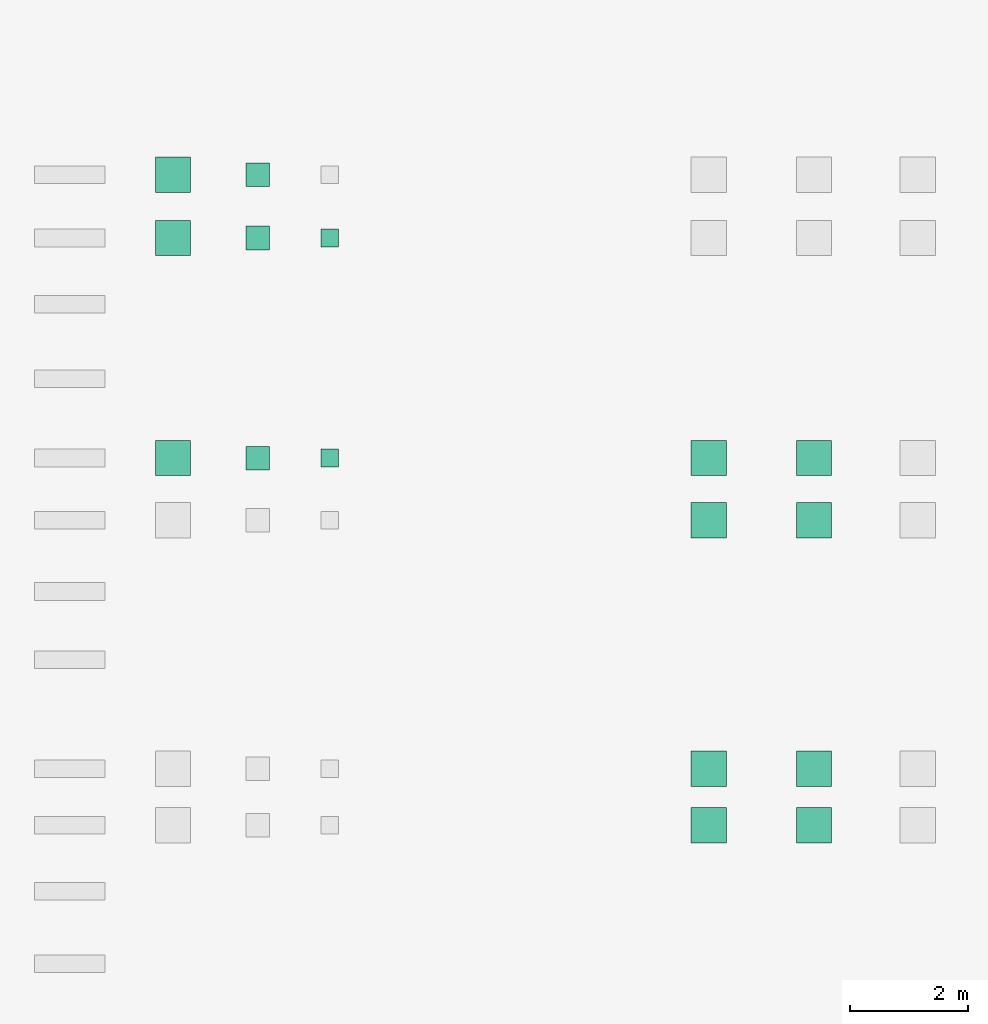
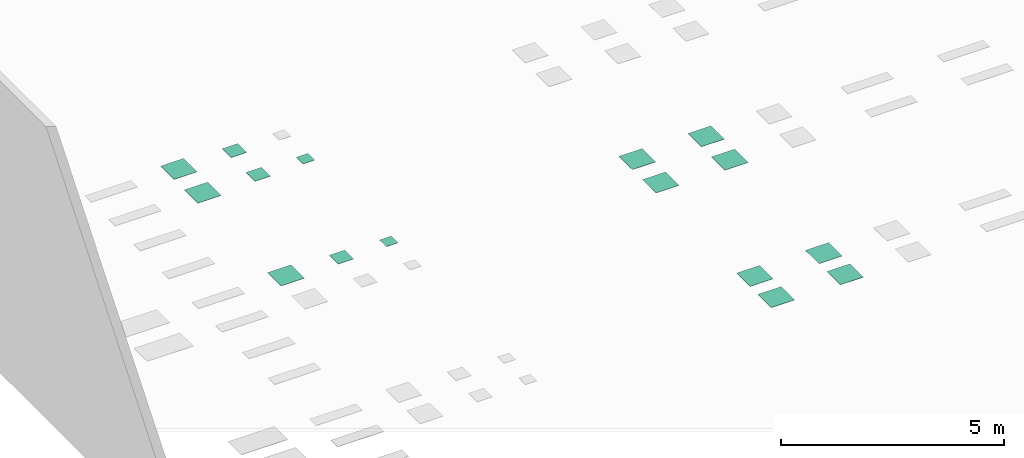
# One storey, part 19 of 197: 16 flow terminals.
"""IFC2X3 building model written with IfcOpenShell, lengths in metres."""

import ifcopenshell
import ifcopenshell.guid

model = None  # the IFC model being written
_history = None  # IfcOwnerHistory: only IFC2X3 demands one
_inside = {}  # id of a spatial element -> (the spatial element, [elements in it])
_under = {}  # id of a project, library or spatial element -> (it, [spatial elements below it])
_declared = {}  # id of a project -> (the project, [libraries it declares])
_typed = {}  # id of a type object -> (the type object, [elements of that type])
_made_of = {}  # id of a material, layer set ... -> (it, [elements and type objects made of it])


def new_model(schema):
    """Start an empty IFC model of exactly this schema.

    Asked for "IFC4X3", IfcOpenShell would pick the latest addendum, in which some entities
    have other attributes; the version numbers below select the first issue.
    IFC2X3 requires an IfcOwnerHistory on every rooted entity: one is made here for all.
    """
    global model, _history
    if schema == "IFC4X3":
        model = ifcopenshell.file(schema_version=(4, 3, 0, 0))
    else:
        model = ifcopenshell.file(schema=schema)
    _inside.clear()
    _under.clear()
    _declared.clear()
    _typed.clear()
    _made_of.clear()
    _history = None
    if model.schema == "IFC2X3":
        org = make("IfcOrganization", Name="unknown")
        user = make(
            "IfcPersonAndOrganization",
            ThePerson=make("IfcPerson", FamilyName="unknown"),
            TheOrganization=org,
        )
        app = make(
            "IfcApplication",
            ApplicationDeveloper=org,
            Version="unknown",
            ApplicationFullName="unknown",
            ApplicationIdentifier="unknown",
        )
        _history = make(
            "IfcOwnerHistory",
            OwningUser=user,
            OwningApplication=app,
            ChangeAction="ADDED",
            CreationDate=0,
        )
    return model


def make(cls, **values):
    """One entity of the class cls with the attributes given. An attribute that is None is left unset."""
    return model.create_entity(
        cls, **{name: value for name, value in values.items() if value is not None}
    )


def entity(cls, *values):
    """Any entity or typed value of the class cls, its attributes in the order of the schema. None: left unset."""
    e = model.create_entity(cls)
    for i, value in enumerate(values):
        if value is not None:
            e[i] = value
    return e


def rooted(cls, **values):
    """An entity with a GlobalId (a new one), such as an element, a storey or a relation."""
    return make(cls, GlobalId=ifcopenshell.guid.new(), OwnerHistory=_history, **values)


def si_unit(unit_type, name, prefix=None):
    """IfcSIUnit, for example si_unit("LENGTHUNIT", "METRE", prefix="MILLI")."""
    return make("IfcSIUnit", UnitType=unit_type, Prefix=prefix, Name=name)


def converted_unit(unit_type, name, factor, base, dimensions=None, offset=None):
    """IfcConversionBasedUnit, such as the inch: factor (a typed value) times the base unit."""
    return make(
        "IfcConversionBasedUnit"
        if offset is None
        else "IfcConversionBasedUnitWithOffset",
        ConversionOffset=offset,
        Dimensions=None
        if dimensions is None
        else entity("IfcDimensionalExponents", *dimensions),
        UnitType=unit_type,
        Name=name,
        ConversionFactor=make(
            "IfcMeasureWithUnit", ValueComponent=factor, UnitComponent=base
        ),
    )


def assignment(units):
    """IfcUnitAssignment: the units of a project."""
    return None if units is None else make("IfcUnitAssignment", Units=units)


def point(xyz):
    """IfcCartesianPoint."""
    return None if xyz is None else make("IfcCartesianPoint", Coordinates=xyz)


def direction(xyz):
    """IfcDirection."""
    return None if xyz is None else make("IfcDirection", DirectionRatios=xyz)


def frame(location, z_axis=None, x_axis=None):
    """IfcAxis2Placement3D, a coordinate frame: its origin and axes. An axis left out is left unset."""
    return make(
        "IfcAxis2Placement3D",
        Location=point(location),
        Axis=direction(z_axis),
        RefDirection=direction(x_axis),
    )


def frame_2d(location, x_axis=None):
    """IfcAxis2Placement2D, a coordinate frame in the plane: its origin and x axis."""
    return make(
        "IfcAxis2Placement2D", Location=point(location), RefDirection=direction(x_axis)
    )


def origin():
    """The frame at (0, 0, 0) with its axes left unset."""
    return frame((0.0, 0.0, 0.0))


def origin_2d_with_axis():
    """The frame at (0, 0) in the plane with the x axis (1, 0) written out."""
    return frame_2d((0.0, 0.0), x_axis=(1.0, 0.0))


def place(relative_to, where):
    """IfcLocalPlacement: puts the frame where relative to a parent placement (None: the world)."""
    return make(
        "IfcLocalPlacement", PlacementRelTo=relative_to, RelativePlacement=where
    )


def context(
    kind, dimensions, precision=None, world=None, true_north=None, identifier=None
):
    """IfcGeometricRepresentationContext, for example the 3D "Model" context."""
    return make(
        "IfcGeometricRepresentationContext",
        ContextIdentifier=identifier,
        ContextType=kind,
        CoordinateSpaceDimension=dimensions,
        Precision=precision,
        WorldCoordinateSystem=world,
        TrueNorth=true_north,
    )


def subcontext(parent, identifier, kind, view, scale=None):
    """IfcGeometricRepresentationSubContext, for example "Body" below "Model"."""
    return make(
        "IfcGeometricRepresentationSubContext",
        ContextIdentifier=identifier,
        ContextType=kind,
        ParentContext=parent,
        TargetScale=scale,
        TargetView=view,
    )


def project(units=None, contexts=None):
    """IfcProject with its units and contexts."""
    return rooted(
        "IfcProject",
        Name="project",
        RepresentationContexts=contexts,
        UnitsInContext=assignment(units),
    )


def spatial(cls, under=None, at=None, **own):
    """A site, building, storey or space (cls), placed at a placement, below another one or the project."""
    s = rooted(cls, ObjectPlacement=at, **own)
    if under is not None:
        _under.setdefault(under.id(), (under, []))[1].append(s)
    return s


def polyline(points):
    """IfcPolyline through the points."""
    return make("IfcPolyline", Points=[point(p) for p in points])


def profile(cls, at=None, kind="AREA", **sizes):
    """A parametric profile (cls). Its sizes go by their IFC names, for example OverallWidth=200.0."""
    return make(cls, ProfileType=kind, Position=at, **sizes)


def rectangle(**sizes):
    """IfcRectangleProfileDef."""
    return profile("IfcRectangleProfileDef", **sizes)


def circle(**sizes):
    """IfcCircleProfileDef."""
    return profile("IfcCircleProfileDef", **sizes)


def outline(outer, holes=None, kind="AREA"):
    """IfcArbitraryClosedProfileDef: a profile drawn as a closed curve; with holes, ...WithVoids."""
    if holes is None:
        return make("IfcArbitraryClosedProfileDef", ProfileType=kind, OuterCurve=outer)
    return make(
        "IfcArbitraryProfileDefWithVoids",
        ProfileType=kind,
        OuterCurve=outer,
        InnerCurves=holes,
    )


def extrude(swept, where, along, depth):
    """IfcExtrudedAreaSolid: the profile swept, set in the frame where, extruded along a direction by depth."""
    return make(
        "IfcExtrudedAreaSolid",
        SweptArea=swept,
        Position=where,
        ExtrudedDirection=direction(along),
        Depth=depth,
    )


def shape(context_of_items, identifier, shape_type, items):
    """IfcShapeRepresentation: the items that make up one representation, for example the "Body"."""
    return make(
        "IfcShapeRepresentation",
        ContextOfItems=context_of_items,
        RepresentationIdentifier=identifier,
        RepresentationType=shape_type,
        Items=items,
    )


def source(mapping_origin, context_of_items, identifier, shape_type, items):
    """IfcRepresentationMap: a shape defined once, which mapped items show again and again."""
    return make(
        "IfcRepresentationMap",
        MappingOrigin=mapping_origin,
        MappedRepresentation=shape(context_of_items, identifier, shape_type, items),
    )


def transform(
    local_origin,
    x_axis=None,
    y_axis=None,
    z_axis=None,
    scale=None,
    scale2=None,
    scale3=None,
    uniform=True,
):
    """IfcCartesianTransformationOperator3D, or its non-uniform kind. x_axis, y_axis, z_axis: its Axis1, 2, 3."""
    if uniform:
        return make(
            "IfcCartesianTransformationOperator3D",
            Axis1=direction(x_axis),
            Axis2=direction(y_axis),
            LocalOrigin=point(local_origin),
            Scale=scale,
            Axis3=direction(z_axis),
        )
    return make(
        "IfcCartesianTransformationOperator3DnonUniform",
        Axis1=direction(x_axis),
        Axis2=direction(y_axis),
        LocalOrigin=point(local_origin),
        Scale=scale,
        Axis3=direction(z_axis),
        Scale2=scale2,
        Scale3=scale3,
    )


def mapped(mapping_source, mapping_target):
    """IfcMappedItem: shows the shape of a source again, moved by a transform."""
    return make(
        "IfcMappedItem", MappingSource=mapping_source, MappingTarget=mapping_target
    )


def material(Name=None, Category=None):
    """IfcMaterial."""
    return make("IfcMaterial", Name=Name, Category=Category)


def material_list(materials):
    """IfcMaterialList."""
    return make("IfcMaterialList", Materials=materials)


def made_of(thing, what):
    """Note that an element or type object is made of a material, layer set ...; save() writes the relation."""
    if what is not None:
        _made_of.setdefault(what.id(), (what, []))[1].append(thing)
    return thing


def type_object(cls, material=None, **own):
    """A type object (cls), such as IfcWallType, which elements share."""
    return made_of(rooted(cls, **own), material)


def type_shapes(of_type, sources):
    """Give a type object the sources (RepresentationMaps) that its elements show as mapped items."""
    of_type.RepresentationMaps = sources


def element(
    cls,
    number,
    at=None,
    inside=None,
    cuts=None,
    type_object=None,
    material=None,
    context=None,
    identifier="Body",
    shape_type=None,
    held_by="IfcProductDefinitionShape",
    body=None,
    shapes=None,
    **own,
):
    """One element of the class cls, such as IfcWall. Its Tag is "e" and its number.

    at: its placement. inside: the storey or other place that contains it. cuts: it is an
    opening in that element (IfcRelVoidsElement). A single representation is given by context,
    identifier, shape_type and body (its items); several are given by shapes. held_by: the class
    of the entity that holds the representations. save() writes the other relations.
    """
    e = rooted(cls, Tag="e%d" % number, ObjectPlacement=at, **own)
    if body is not None:
        shapes = [shape(context, identifier, shape_type, body)]
    if shapes is not None:
        e.Representation = make(held_by, Representations=shapes)
    if inside is not None:
        _inside.setdefault(inside.id(), (inside, []))[1].append(e)
    if cuts is not None:
        rooted(
            "IfcRelVoidsElement", RelatingBuildingElement=cuts, RelatedOpeningElement=e
        )
    if type_object is not None:
        _typed.setdefault(type_object.id(), (type_object, []))[1].append(e)
    return made_of(e, material)


def aggregate(whole, parts):
    """IfcRelAggregates: a whole, such as a stair, and the parts it consists of."""
    return rooted("IfcRelAggregates", RelatingObject=whole, RelatedObjects=parts)


def save(model, path):
    """Write the relations noted so far, then the file.

    IfcRelAggregates (storeys below a building ...), IfcRelContainedInSpatialStructure (elements
    in a storey), IfcRelDefinesByType, IfcRelAssociatesMaterial and IfcRelDeclares: one each for
    every whole, place, type object, material and project.
    """
    for whole, parts in _under.values():
        aggregate(whole, parts)
    for where, things in _inside.values():
        rooted(
            "IfcRelContainedInSpatialStructure",
            RelatedElements=things,
            RelatingStructure=where,
        )
    for kind, things in _typed.values():
        rooted("IfcRelDefinesByType", RelatedObjects=things, RelatingType=kind)
    for what, things in _made_of.values():
        rooted("IfcRelAssociatesMaterial", RelatedObjects=things, RelatingMaterial=what)
    for by, libraries in _declared.values():
        rooted("IfcRelDeclares", RelatingContext=by, RelatedDefinitions=libraries)
    model.write(path)


model = new_model("IFC2X3")

# Units and contexts
model_context = context("Model", 3, precision=1e-05, world=origin(), true_north=direction((6.123031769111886e-17, 1.0)))
body_context = subcontext(model_context, "Body", "Model", "MODEL_VIEW")
ifc_project = project(units=[si_unit("LENGTHUNIT", "METRE"), converted_unit("PLANEANGLEUNIT", "DEGREE", entity("IfcPlaneAngleMeasure", 0.017453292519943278), si_unit("PLANEANGLEUNIT", "RADIAN"), dimensions=[0, 0, 0, 0, 0, 0, 0]), si_unit("AREAUNIT", "SQUARE_METRE")], contexts=[model_context])

# Site, building, storey
site_placement = place(None, origin())
site = spatial("IfcSite", under=ifc_project, at=site_placement, Name="Default", CompositionType="ELEMENT")
building_placement = place(site_placement, origin())
building = spatial("IfcBuilding", under=site, at=building_placement, CompositionType="ELEMENT")
storey_placement = place(building_placement, origin())
storey = spatial("IfcBuildingStorey", under=building, at=storey_placement, Name="Niveau 0", CompositionType="ELEMENT", Elevation=0.0)

# Flow terminals
ifc_material_1 = material(Name="<Unnamed>")
light_fixture_type_1 = type_object("IfcLightFixtureType", Name="Pavé LED encastré_saillie_suspendu:ENCASTRE - 600X600", PredefinedType="NOTDEFINED", material=ifc_material_1)
shared_shape_1 = source(origin(), body_context, "Body", "SweptSolid", [
    extrude(rectangle(XDim=0.56, YDim=0.56, at=origin_2d_with_axis()), frame((0.0, 0.0, 1.5013367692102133), z_axis=(0.0, 0.0, 1.0), x_axis=(-1.0, 0.0, 0.0)), (0.0, 0.0, 1.0), 0.008663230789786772),
    extrude(outline(polyline([(-0.30000000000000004, -0.30000000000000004), (0.30000000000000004, -0.30000000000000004), (0.30000000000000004, 0.30000000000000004), (-0.30000000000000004, 0.30000000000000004), (-0.30000000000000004, -0.30000000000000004)]), holes=[polyline([(0.28, -0.28), (-0.28, -0.28), (-0.28, 0.28), (0.28, 0.28), (0.28, -0.28)])]), frame((0.0, 0.0, 1.499999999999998), z_axis=(0.0, 0.0, 1.0), x_axis=(-1.0, 0.0, 0.0)), (0.0, 0.0, 1.0), 0.010000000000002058),
    extrude(circle(Radius=0.0014999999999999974, at=origin_2d_with_axis()), frame((0.28999999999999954, -0.2900000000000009, 1.51)), (0.0, 0.0, 1.0), 0.0010000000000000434),
    extrude(circle(Radius=0.0014999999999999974, at=origin_2d_with_axis()), frame((0.28999999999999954, 0.2900000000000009, 1.51)), (0.0, 0.0, 1.0), 0.0010000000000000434),
    extrude(circle(Radius=0.0014999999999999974, at=origin_2d_with_axis()), frame((-0.28999999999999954, 0.2900000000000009, 1.51)), (0.0, 0.0, 1.0), 0.0010000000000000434),
    extrude(circle(Radius=0.0014999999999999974, at=origin_2d_with_axis()), frame((-0.28999999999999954, -0.2900000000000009, 1.51)), (0.0, 0.0, 1.0), 0.0010000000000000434),
])
type_shapes(light_fixture_type_1, [shared_shape_1])
flow_terminal_1_placement = place(storey_placement, frame((-534.2447105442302, 47.699573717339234, 0.0)))
element("IfcFlowTerminal", 1, at=flow_terminal_1_placement, inside=storey, type_object=light_fixture_type_1, material=ifc_material_1, Name="Pavé LED encastré_saillie_suspendu:ENCASTRE - 600X600", ObjectType="Pavé LED encastré_saillie_suspendu:ENCASTRE - 600X600", context=body_context, shape_type="MappedRepresentation", body=[
    mapped(shared_shape_1, transform((0.0, 0.0, 0.0), scale=1.0)),
])
light_fixture_type_2 = type_object("IfcLightFixtureType", Name="Pavé LED encastré_saillie_suspendu:ENCASTRE - 400X400", PredefinedType="NOTDEFINED", material=ifc_material_1)
shared_shape_2 = source(origin(), body_context, "Body", "SweptSolid", [
    extrude(rectangle(XDim=0.36, YDim=0.36, at=origin_2d_with_axis()), frame((0.0, 0.0, 1.5013367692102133), z_axis=(0.0, 0.0, 1.0), x_axis=(-1.0, 0.0, 0.0)), (0.0, 0.0, 1.0), 0.008663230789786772),
    extrude(outline(polyline([(-0.19999999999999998, -0.19999999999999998), (0.19999999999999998, -0.19999999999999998), (0.19999999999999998, 0.19999999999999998), (-0.19999999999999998, 0.19999999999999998), (-0.19999999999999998, -0.19999999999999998)]), holes=[polyline([(0.18, -0.18), (-0.18, -0.18), (-0.18, 0.18), (0.18, 0.18), (0.18, -0.18)])]), frame((0.0, 0.0, 1.499999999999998), z_axis=(0.0, 0.0, 1.0), x_axis=(-1.0, 0.0, 0.0)), (0.0, 0.0, 1.0), 0.010000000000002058),
    extrude(circle(Radius=0.0014999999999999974, at=origin_2d_with_axis()), frame((0.1899999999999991, -0.19000000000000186, 1.51)), (0.0, 0.0, 1.0), 0.0010000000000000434),
    extrude(circle(Radius=0.0014999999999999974, at=origin_2d_with_axis()), frame((0.1899999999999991, 0.18999999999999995, 1.51)), (0.0, 0.0, 1.0), 0.0010000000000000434),
    extrude(circle(Radius=0.0014999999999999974, at=origin_2d_with_axis()), frame((-0.19000000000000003, 0.18999999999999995, 1.51)), (0.0, 0.0, 1.0), 0.0010000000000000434),
    extrude(circle(Radius=0.0014999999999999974, at=origin_2d_with_axis()), frame((-0.19000000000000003, -0.19000000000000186, 1.51)), (0.0, 0.0, 1.0), 0.0010000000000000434),
])
type_shapes(light_fixture_type_2, [shared_shape_2])
flow_terminal_2_placement = place(storey_placement, frame((-532.8067105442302, 47.699573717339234, 0.0)))
element("IfcFlowTerminal", 2, at=flow_terminal_2_placement, inside=storey, type_object=light_fixture_type_2, material=ifc_material_1, Name="Pavé LED encastré_saillie_suspendu:ENCASTRE - 400X400", ObjectType="Pavé LED encastré_saillie_suspendu:ENCASTRE - 400X400", context=body_context, shape_type="MappedRepresentation", body=[
    mapped(shared_shape_2, transform((0.0, 0.0, 0.0), scale=1.0)),
])
light_fixture_type_3 = type_object("IfcLightFixtureType", Name="Pavé LED encastré_saillie_suspendu:ENCASTRE DALI - 300X300", PredefinedType="NOTDEFINED", material=ifc_material_1)
shared_shape_3 = source(origin(), body_context, "Body", "SweptSolid", [
    extrude(rectangle(XDim=0.26000000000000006, YDim=0.26, at=origin_2d_with_axis()), frame((0.0, 0.0, 1.5013367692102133), z_axis=(0.0, 0.0, 1.0), x_axis=(-1.0, 0.0, 0.0)), (0.0, 0.0, 1.0), 0.008663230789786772),
    extrude(outline(polyline([(-0.15000000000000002, -0.15), (0.15000000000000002, -0.15), (0.15000000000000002, 0.15), (-0.15000000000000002, 0.15), (-0.15000000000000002, -0.15)]), holes=[polyline([(0.13000000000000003, -0.13), (-0.13000000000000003, -0.13), (-0.13000000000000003, 0.13), (0.13000000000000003, 0.13), (0.13000000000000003, -0.13)])]), frame((0.0, 0.0, 1.499999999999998), z_axis=(0.0, 0.0, 1.0), x_axis=(-1.0, 0.0, 0.0)), (0.0, 0.0, 1.0), 0.010000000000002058),
    extrude(circle(Radius=0.0014999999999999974, at=origin_2d_with_axis()), frame((0.1399999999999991, -0.14000000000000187, 1.51)), (0.0, 0.0, 1.0), 0.0010000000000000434),
    extrude(circle(Radius=0.0014999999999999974, at=origin_2d_with_axis()), frame((0.1399999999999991, 0.13999999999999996, 1.51)), (0.0, 0.0, 1.0), 0.0010000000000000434),
    extrude(circle(Radius=0.0014999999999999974, at=origin_2d_with_axis()), frame((-0.14000000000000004, 0.13999999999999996, 1.51)), (0.0, 0.0, 1.0), 0.0010000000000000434),
    extrude(circle(Radius=0.0014999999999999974, at=origin_2d_with_axis()), frame((-0.14000000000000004, -0.14000000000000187, 1.51)), (0.0, 0.0, 1.0), 0.0010000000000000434),
])
type_shapes(light_fixture_type_3, [shared_shape_3])
flow_terminal_3_placement = place(storey_placement, frame((-531.5807105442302, 46.627355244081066, 0.0)))
element("IfcFlowTerminal", 3, at=flow_terminal_3_placement, inside=storey, type_object=light_fixture_type_3, material=ifc_material_1, Name="Pavé LED encastré_saillie_suspendu:ENCASTRE DALI - 300X300", ObjectType="Pavé LED encastré_saillie_suspendu:ENCASTRE DALI - 300X300", context=body_context, shape_type="MappedRepresentation", body=[
    mapped(shared_shape_3, transform((0.0, 0.0, 0.0), scale=1.0)),
])
light_fixture_type_4 = type_object("IfcLightFixtureType", Name="Pavé LED encastré_saillie_suspendu:ENCASTRE DALI - 400X400", PredefinedType="NOTDEFINED", material=ifc_material_1)
shared_shape_4 = source(origin(), body_context, "Body", "SweptSolid", [
    extrude(rectangle(XDim=0.36, YDim=0.36, at=origin_2d_with_axis()), frame((0.0, 0.0, 1.5013367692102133), z_axis=(0.0, 0.0, 1.0), x_axis=(-1.0, 0.0, 0.0)), (0.0, 0.0, 1.0), 0.008663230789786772),
    extrude(outline(polyline([(-0.19999999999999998, -0.19999999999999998), (0.19999999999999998, -0.19999999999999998), (0.19999999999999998, 0.19999999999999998), (-0.19999999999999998, 0.19999999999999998), (-0.19999999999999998, -0.19999999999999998)]), holes=[polyline([(0.18, -0.18), (-0.18, -0.18), (-0.18, 0.18), (0.18, 0.18), (0.18, -0.18)])]), frame((0.0, 0.0, 1.499999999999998), z_axis=(0.0, 0.0, 1.0), x_axis=(-1.0, 0.0, 0.0)), (0.0, 0.0, 1.0), 0.010000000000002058),
    extrude(circle(Radius=0.0014999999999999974, at=origin_2d_with_axis()), frame((0.1899999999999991, -0.19000000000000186, 1.51)), (0.0, 0.0, 1.0), 0.0010000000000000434),
    extrude(circle(Radius=0.0014999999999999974, at=origin_2d_with_axis()), frame((0.1899999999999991, 0.18999999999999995, 1.51)), (0.0, 0.0, 1.0), 0.0010000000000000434),
    extrude(circle(Radius=0.0014999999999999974, at=origin_2d_with_axis()), frame((-0.19000000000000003, 0.18999999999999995, 1.51)), (0.0, 0.0, 1.0), 0.0010000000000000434),
    extrude(circle(Radius=0.0014999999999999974, at=origin_2d_with_axis()), frame((-0.19000000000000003, -0.19000000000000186, 1.51)), (0.0, 0.0, 1.0), 0.0010000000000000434),
])
type_shapes(light_fixture_type_4, [shared_shape_4])
flow_terminal_4_placement = place(storey_placement, frame((-532.8067105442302, 46.627355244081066, 0.0)))
element("IfcFlowTerminal", 4, at=flow_terminal_4_placement, inside=storey, type_object=light_fixture_type_4, material=ifc_material_1, Name="Pavé LED encastré_saillie_suspendu:ENCASTRE DALI - 400X400", ObjectType="Pavé LED encastré_saillie_suspendu:ENCASTRE DALI - 400X400", context=body_context, shape_type="MappedRepresentation", body=[
    mapped(shared_shape_4, transform((0.0, 0.0, 0.0), scale=1.0)),
])
light_fixture_type_5 = type_object("IfcLightFixtureType", Name="Pavé LED encastré_saillie_suspendu:ENCASTRE DALI - 600X600", PredefinedType="NOTDEFINED", material=ifc_material_1)
shared_shape_5 = source(origin(), body_context, "Body", "SweptSolid", [
    extrude(rectangle(XDim=0.56, YDim=0.56, at=origin_2d_with_axis()), frame((0.0, 0.0, 1.5013367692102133), z_axis=(0.0, 0.0, 1.0), x_axis=(-1.0, 0.0, 0.0)), (0.0, 0.0, 1.0), 0.008663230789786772),
    extrude(outline(polyline([(-0.30000000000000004, -0.30000000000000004), (0.30000000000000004, -0.30000000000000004), (0.30000000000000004, 0.30000000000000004), (-0.30000000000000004, 0.30000000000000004), (-0.30000000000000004, -0.30000000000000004)]), holes=[polyline([(0.28, -0.28), (-0.28, -0.28), (-0.28, 0.28), (0.28, 0.28), (0.28, -0.28)])]), frame((0.0, 0.0, 1.499999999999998), z_axis=(0.0, 0.0, 1.0), x_axis=(-1.0, 0.0, 0.0)), (0.0, 0.0, 1.0), 0.010000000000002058),
    extrude(circle(Radius=0.0014999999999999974, at=origin_2d_with_axis()), frame((0.28999999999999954, -0.2900000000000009, 1.51)), (0.0, 0.0, 1.0), 0.0010000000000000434),
    extrude(circle(Radius=0.0014999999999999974, at=origin_2d_with_axis()), frame((0.28999999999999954, 0.2900000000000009, 1.51)), (0.0, 0.0, 1.0), 0.0010000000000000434),
    extrude(circle(Radius=0.0014999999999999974, at=origin_2d_with_axis()), frame((-0.28999999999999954, 0.2900000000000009, 1.51)), (0.0, 0.0, 1.0), 0.0010000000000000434),
    extrude(circle(Radius=0.0014999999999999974, at=origin_2d_with_axis()), frame((-0.28999999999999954, -0.2900000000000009, 1.51)), (0.0, 0.0, 1.0), 0.0010000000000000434),
])
type_shapes(light_fixture_type_5, [shared_shape_5])
flow_terminal_5_placement = place(storey_placement, frame((-534.2447105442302, 46.627355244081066, 0.0)))
element("IfcFlowTerminal", 5, at=flow_terminal_5_placement, inside=storey, type_object=light_fixture_type_5, material=ifc_material_1, Name="Pavé LED encastré_saillie_suspendu:ENCASTRE DALI - 600X600", ObjectType="Pavé LED encastré_saillie_suspendu:ENCASTRE DALI - 600X600", context=body_context, shape_type="MappedRepresentation", body=[
    mapped(shared_shape_5, transform((0.0, 0.0, 0.0), scale=1.0)),
])
light_fixture_type_6 = type_object("IfcLightFixtureType", Name="Pavé LED encastré_saillie_suspendu:SAILLIE - 600X600", PredefinedType="NOTDEFINED", material=ifc_material_1)
shared_shape_6 = source(origin(), body_context, "Body", "SweptSolid", [
    extrude(rectangle(XDim=0.56, YDim=0.56, at=origin_2d_with_axis()), frame((0.0, 0.0, 1.5013367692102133), z_axis=(0.0, 0.0, 1.0), x_axis=(-1.0, 0.0, 0.0)), (0.0, 0.0, 1.0), 0.008663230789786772),
    extrude(outline(polyline([(-0.30000000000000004, -0.30000000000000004), (0.30000000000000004, -0.30000000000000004), (0.30000000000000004, 0.30000000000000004), (-0.30000000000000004, 0.30000000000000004), (-0.30000000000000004, -0.30000000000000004)]), holes=[polyline([(0.28, -0.28), (-0.28, -0.28), (-0.28, 0.28), (0.28, 0.28), (0.28, -0.28)])]), frame((0.0, 0.0, 1.499999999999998), z_axis=(0.0, 0.0, 1.0), x_axis=(-1.0, 0.0, 0.0)), (0.0, 0.0, 1.0), 0.010000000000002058),
    extrude(circle(Radius=0.0014999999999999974, at=origin_2d_with_axis()), frame((0.28999999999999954, -0.2900000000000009, 1.51)), (0.0, 0.0, 1.0), 0.0010000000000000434),
    extrude(circle(Radius=0.0014999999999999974, at=origin_2d_with_axis()), frame((0.28999999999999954, 0.2900000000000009, 1.51)), (0.0, 0.0, 1.0), 0.0010000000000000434),
    extrude(circle(Radius=0.0014999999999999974, at=origin_2d_with_axis()), frame((-0.28999999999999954, 0.2900000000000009, 1.51)), (0.0, 0.0, 1.0), 0.0010000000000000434),
    extrude(circle(Radius=0.0014999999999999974, at=origin_2d_with_axis()), frame((-0.28999999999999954, -0.2900000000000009, 1.51)), (0.0, 0.0, 1.0), 0.0010000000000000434),
])
type_shapes(light_fixture_type_6, [shared_shape_6])
flow_terminal_6_placement = place(storey_placement, frame((-534.2447105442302, 42.89135524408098, 0.0)))
element("IfcFlowTerminal", 6, at=flow_terminal_6_placement, inside=storey, type_object=light_fixture_type_6, material=ifc_material_1, Name="Pavé LED encastré_saillie_suspendu:SAILLIE - 600X600", ObjectType="Pavé LED encastré_saillie_suspendu:SAILLIE - 600X600", context=body_context, shape_type="MappedRepresentation", body=[
    mapped(shared_shape_6, transform((0.0, 0.0, 0.0), scale=1.0)),
])
light_fixture_type_7 = type_object("IfcLightFixtureType", Name="Pavé LED encastré_saillie_suspendu:SAILLIE - 400X400", PredefinedType="NOTDEFINED", material=ifc_material_1)
shared_shape_7 = source(origin(), body_context, "Body", "SweptSolid", [
    extrude(rectangle(XDim=0.36, YDim=0.36, at=origin_2d_with_axis()), frame((0.0, 0.0, 1.5013367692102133), z_axis=(0.0, 0.0, 1.0), x_axis=(-1.0, 0.0, 0.0)), (0.0, 0.0, 1.0), 0.008663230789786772),
    extrude(outline(polyline([(-0.19999999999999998, -0.19999999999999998), (0.19999999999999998, -0.19999999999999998), (0.19999999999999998, 0.19999999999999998), (-0.19999999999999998, 0.19999999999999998), (-0.19999999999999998, -0.19999999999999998)]), holes=[polyline([(0.18, -0.18), (-0.18, -0.18), (-0.18, 0.18), (0.18, 0.18), (0.18, -0.18)])]), frame((0.0, 0.0, 1.499999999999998), z_axis=(0.0, 0.0, 1.0), x_axis=(-1.0, 0.0, 0.0)), (0.0, 0.0, 1.0), 0.010000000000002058),
    extrude(circle(Radius=0.0014999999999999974, at=origin_2d_with_axis()), frame((0.1899999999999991, -0.19000000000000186, 1.51)), (0.0, 0.0, 1.0), 0.0010000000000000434),
    extrude(circle(Radius=0.0014999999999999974, at=origin_2d_with_axis()), frame((0.1899999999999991, 0.18999999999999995, 1.51)), (0.0, 0.0, 1.0), 0.0010000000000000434),
    extrude(circle(Radius=0.0014999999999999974, at=origin_2d_with_axis()), frame((-0.19000000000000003, 0.18999999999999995, 1.51)), (0.0, 0.0, 1.0), 0.0010000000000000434),
    extrude(circle(Radius=0.0014999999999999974, at=origin_2d_with_axis()), frame((-0.19000000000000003, -0.19000000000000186, 1.51)), (0.0, 0.0, 1.0), 0.0010000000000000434),
])
type_shapes(light_fixture_type_7, [shared_shape_7])
flow_terminal_7_placement = place(storey_placement, frame((-532.8067105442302, 42.89135524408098, 0.0)))
element("IfcFlowTerminal", 7, at=flow_terminal_7_placement, inside=storey, type_object=light_fixture_type_7, material=ifc_material_1, Name="Pavé LED encastré_saillie_suspendu:SAILLIE - 400X400", ObjectType="Pavé LED encastré_saillie_suspendu:SAILLIE - 400X400", context=body_context, shape_type="MappedRepresentation", body=[
    mapped(shared_shape_7, transform((0.0, 0.0, 0.0), scale=1.0)),
])
light_fixture_type_8 = type_object("IfcLightFixtureType", Name="Pavé LED encastré_saillie_suspendu:SAILLIE - 300X300", PredefinedType="NOTDEFINED", material=ifc_material_1)
shared_shape_8 = source(origin(), body_context, "Body", "SweptSolid", [
    extrude(rectangle(XDim=0.26000000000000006, YDim=0.26, at=origin_2d_with_axis()), frame((0.0, 0.0, 1.5013367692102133), z_axis=(0.0, 0.0, 1.0), x_axis=(-1.0, 0.0, 0.0)), (0.0, 0.0, 1.0), 0.008663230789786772),
    extrude(outline(polyline([(-0.15000000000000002, -0.15), (0.15000000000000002, -0.15), (0.15000000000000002, 0.15), (-0.15000000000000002, 0.15), (-0.15000000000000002, -0.15)]), holes=[polyline([(0.13000000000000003, -0.13), (-0.13000000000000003, -0.13), (-0.13000000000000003, 0.13), (0.13000000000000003, 0.13), (0.13000000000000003, -0.13)])]), frame((0.0, 0.0, 1.499999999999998), z_axis=(0.0, 0.0, 1.0), x_axis=(-1.0, 0.0, 0.0)), (0.0, 0.0, 1.0), 0.010000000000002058),
    extrude(circle(Radius=0.0014999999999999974, at=origin_2d_with_axis()), frame((0.1399999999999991, -0.14000000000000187, 1.51)), (0.0, 0.0, 1.0), 0.0010000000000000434),
    extrude(circle(Radius=0.0014999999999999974, at=origin_2d_with_axis()), frame((0.1399999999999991, 0.13999999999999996, 1.51)), (0.0, 0.0, 1.0), 0.0010000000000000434),
    extrude(circle(Radius=0.0014999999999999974, at=origin_2d_with_axis()), frame((-0.14000000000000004, 0.13999999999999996, 1.51)), (0.0, 0.0, 1.0), 0.0010000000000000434),
    extrude(circle(Radius=0.0014999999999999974, at=origin_2d_with_axis()), frame((-0.14000000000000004, -0.14000000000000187, 1.51)), (0.0, 0.0, 1.0), 0.0010000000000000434),
])
type_shapes(light_fixture_type_8, [shared_shape_8])
flow_terminal_8_placement = place(storey_placement, frame((-531.5807105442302, 42.89135524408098, 0.0)))
element("IfcFlowTerminal", 8, at=flow_terminal_8_placement, inside=storey, type_object=light_fixture_type_8, material=ifc_material_1, Name="Pavé LED encastré_saillie_suspendu:SAILLIE - 300X300", ObjectType="Pavé LED encastré_saillie_suspendu:SAILLIE - 300X300", context=body_context, shape_type="MappedRepresentation", body=[
    mapped(shared_shape_8, transform((0.0, 0.0, 0.0), scale=1.0)),
])
ifc_material_2 = material(Name="BETCE-DIFFUSEUR-BLANC")
ifc_material_3 = material(Name="BETCE-ENVELOPPE-BLANC")
ifc_material_list = material_list([ifc_material_1, ifc_material_2, ifc_material_3])
light_fixture_type_9 = type_object("IfcLightFixtureType", Name="Pavé LED lentille encastré_saillie_suspendu:SAILLIE - 600X600 - 2L DE 8", PredefinedType="NOTDEFINED", material=ifc_material_list)
shared_shape_9 = source(origin(), body_context, "Body", "SweptSolid", [
    extrude(circle(Radius=0.0014999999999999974, at=origin_2d_with_axis()), frame((0.28999999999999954, -0.2900000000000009, 1.51)), (0.0, 0.0, 1.0), 0.0010000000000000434),
    extrude(circle(Radius=0.0014999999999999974, at=origin_2d_with_axis()), frame((0.28999999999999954, 0.2900000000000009, 1.51)), (0.0, 0.0, 1.0), 0.0010000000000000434),
    extrude(circle(Radius=0.0014999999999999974, at=origin_2d_with_axis()), frame((-0.28999999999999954, 0.2900000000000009, 1.51)), (0.0, 0.0, 1.0), 0.0010000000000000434),
    extrude(circle(Radius=0.0014999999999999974, at=origin_2d_with_axis()), frame((-0.28999999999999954, -0.2900000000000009, 1.51)), (0.0, 0.0, 1.0), 0.0010000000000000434),
    extrude(rectangle(XDim=0.56, YDim=0.56, at=origin_2d_with_axis()), frame((0.0, 0.0, 1.5013367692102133), z_axis=(0.0, 0.0, 1.0), x_axis=(-1.0, 0.0, 0.0)), (0.0, 0.0, 1.0), 0.008663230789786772),
    extrude(outline(polyline([(-0.30000000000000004, -0.30000000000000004), (0.30000000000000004, -0.30000000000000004), (0.30000000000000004, 0.30000000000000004), (-0.30000000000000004, 0.30000000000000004), (-0.30000000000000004, -0.30000000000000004)]), holes=[polyline([(0.28, -0.28), (-0.28, -0.28), (-0.28, 0.28), (0.28, 0.28), (0.28, -0.28)])]), frame((0.0, 0.0, 1.499999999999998), z_axis=(0.0, 0.0, 1.0), x_axis=(-1.0, 0.0, 0.0)), (0.0, 0.0, 1.0), 0.010000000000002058),
])
type_shapes(light_fixture_type_9, [shared_shape_9])
flow_terminal_9_placement = place(storey_placement, frame((-525.1467105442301, 42.89135524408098, 0.0)))
element("IfcFlowTerminal", 9, at=flow_terminal_9_placement, inside=storey, type_object=light_fixture_type_9, material=ifc_material_list, Name="Pavé LED lentille encastré_saillie_suspendu:SAILLIE - 600X600 - 2L DE 8", ObjectType="Pavé LED lentille encastré_saillie_suspendu:SAILLIE - 600X600 - 2L DE 8", context=body_context, shape_type="MappedRepresentation", body=[
    mapped(shared_shape_9, transform((0.0, 0.0, 0.0), scale=1.0)),
])
light_fixture_type_10 = type_object("IfcLightFixtureType", Name="Pavé LED lentille encastré_saillie_suspendu:SAILLIE - 600X600 - 3L DE 8", PredefinedType="NOTDEFINED", material=ifc_material_list)
shared_shape_10 = source(origin(), body_context, "Body", "SweptSolid", [
    extrude(circle(Radius=0.0014999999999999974, at=origin_2d_with_axis()), frame((0.28999999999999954, -0.2900000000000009, 1.51)), (0.0, 0.0, 1.0), 0.0010000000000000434),
    extrude(circle(Radius=0.0014999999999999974, at=origin_2d_with_axis()), frame((0.28999999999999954, 0.2900000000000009, 1.51)), (0.0, 0.0, 1.0), 0.0010000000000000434),
    extrude(circle(Radius=0.0014999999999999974, at=origin_2d_with_axis()), frame((-0.28999999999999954, 0.2900000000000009, 1.51)), (0.0, 0.0, 1.0), 0.0010000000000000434),
    extrude(circle(Radius=0.0014999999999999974, at=origin_2d_with_axis()), frame((-0.28999999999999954, -0.2900000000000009, 1.51)), (0.0, 0.0, 1.0), 0.0010000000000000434),
    extrude(rectangle(XDim=0.56, YDim=0.56, at=origin_2d_with_axis()), frame((0.0, 0.0, 1.5013367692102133), z_axis=(0.0, 0.0, 1.0), x_axis=(-1.0, 0.0, 0.0)), (0.0, 0.0, 1.0), 0.008663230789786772),
    extrude(outline(polyline([(-0.30000000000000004, -0.30000000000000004), (0.30000000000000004, -0.30000000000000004), (0.30000000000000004, 0.30000000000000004), (-0.30000000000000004, 0.30000000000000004), (-0.30000000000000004, -0.30000000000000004)]), holes=[polyline([(0.28, -0.28), (-0.28, -0.28), (-0.28, 0.28), (0.28, 0.28), (0.28, -0.28)])]), frame((0.0, 0.0, 1.499999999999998), z_axis=(0.0, 0.0, 1.0), x_axis=(-1.0, 0.0, 0.0)), (0.0, 0.0, 1.0), 0.010000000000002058),
])
type_shapes(light_fixture_type_10, [shared_shape_10])
for number, where in (
    (10, (-523.3607105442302, 42.89135524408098, 0.0)),
    (11, (-523.3607105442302, 41.83535524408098, 0.0)),
):
    element("IfcFlowTerminal", number, at=place(storey_placement, frame(where)), inside=storey, type_object=light_fixture_type_10, material=ifc_material_list, Name="Pavé LED lentille encastré_saillie_suspendu:SAILLIE - 600X600 - 3L DE 8", ObjectType="Pavé LED lentille encastré_saillie_suspendu:SAILLIE - 600X600 - 3L DE 8", context=body_context, shape_type="MappedRepresentation", body=[
        mapped(shared_shape_10, transform((0.0, 0.0, 0.0), scale=1.0)),
    ])
light_fixture_type_11 = type_object("IfcLightFixtureType", Name="Pavé LED lentille encastré_saillie_suspendu:SAILLIE DALI - 600X600 - 2L DE 8", PredefinedType="NOTDEFINED", material=ifc_material_list)
shared_shape_11 = source(origin(), body_context, "Body", "SweptSolid", [
    extrude(circle(Radius=0.0014999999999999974, at=origin_2d_with_axis()), frame((0.28999999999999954, -0.2900000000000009, 1.51)), (0.0, 0.0, 1.0), 0.0010000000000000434),
    extrude(circle(Radius=0.0014999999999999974, at=origin_2d_with_axis()), frame((0.28999999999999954, 0.2900000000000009, 1.51)), (0.0, 0.0, 1.0), 0.0010000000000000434),
    extrude(circle(Radius=0.0014999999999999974, at=origin_2d_with_axis()), frame((-0.28999999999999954, 0.2900000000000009, 1.51)), (0.0, 0.0, 1.0), 0.0010000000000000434),
    extrude(circle(Radius=0.0014999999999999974, at=origin_2d_with_axis()), frame((-0.28999999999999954, -0.2900000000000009, 1.51)), (0.0, 0.0, 1.0), 0.0010000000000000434),
    extrude(rectangle(XDim=0.56, YDim=0.56, at=origin_2d_with_axis()), frame((0.0, 0.0, 1.5013367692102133), z_axis=(0.0, 0.0, 1.0), x_axis=(-1.0, 0.0, 0.0)), (0.0, 0.0, 1.0), 0.008663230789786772),
    extrude(outline(polyline([(-0.30000000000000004, -0.30000000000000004), (0.30000000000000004, -0.30000000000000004), (0.30000000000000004, 0.30000000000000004), (-0.30000000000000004, 0.30000000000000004), (-0.30000000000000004, -0.30000000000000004)]), holes=[polyline([(0.28, -0.28), (-0.28, -0.28), (-0.28, 0.28), (0.28, 0.28), (0.28, -0.28)])]), frame((0.0, 0.0, 1.499999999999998), z_axis=(0.0, 0.0, 1.0), x_axis=(-1.0, 0.0, 0.0)), (0.0, 0.0, 1.0), 0.010000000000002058),
])
type_shapes(light_fixture_type_11, [shared_shape_11])
flow_terminal_10_placement = place(storey_placement, frame((-525.1467105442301, 41.83535524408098, 0.0)))
element("IfcFlowTerminal", 12, at=flow_terminal_10_placement, inside=storey, type_object=light_fixture_type_11, material=ifc_material_list, Name="Pavé LED lentille encastré_saillie_suspendu:SAILLIE DALI - 600X600 - 2L DE 8", ObjectType="Pavé LED lentille encastré_saillie_suspendu:SAILLIE DALI - 600X600 - 2L DE 8", context=body_context, shape_type="MappedRepresentation", body=[
    mapped(shared_shape_11, transform((0.0, 0.0, 0.0), scale=1.0)),
])
light_fixture_type_12 = type_object("IfcLightFixtureType", Name="Pavé LED lentille encastré_saillie_suspendu:SUSPENDU - 600X600 - 2L DE 8", PredefinedType="NOTDEFINED", material=ifc_material_list)
shared_shape_12 = source(origin(), body_context, "Body", "SweptSolid", [
    extrude(circle(Radius=0.0014999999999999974, at=origin_2d_with_axis()), frame((0.28999999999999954, -0.2900000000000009, 1.51)), (0.0, 0.0, 1.0), 0.0010000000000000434),
    extrude(circle(Radius=0.0014999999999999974, at=origin_2d_with_axis()), frame((0.28999999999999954, 0.2900000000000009, 1.51)), (0.0, 0.0, 1.0), 0.0010000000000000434),
    extrude(circle(Radius=0.0014999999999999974, at=origin_2d_with_axis()), frame((-0.28999999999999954, 0.2900000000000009, 1.51)), (0.0, 0.0, 1.0), 0.0010000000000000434),
    extrude(circle(Radius=0.0014999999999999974, at=origin_2d_with_axis()), frame((-0.28999999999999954, -0.2900000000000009, 1.51)), (0.0, 0.0, 1.0), 0.0010000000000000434),
    extrude(rectangle(XDim=0.56, YDim=0.56, at=origin_2d_with_axis()), frame((0.0, 0.0, 1.5013367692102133), z_axis=(0.0, 0.0, 1.0), x_axis=(-1.0, 0.0, 0.0)), (0.0, 0.0, 1.0), 0.008663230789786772),
    extrude(outline(polyline([(-0.30000000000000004, -0.30000000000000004), (0.30000000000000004, -0.30000000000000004), (0.30000000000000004, 0.30000000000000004), (-0.30000000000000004, 0.30000000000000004), (-0.30000000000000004, -0.30000000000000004)]), holes=[polyline([(0.28, -0.28), (-0.28, -0.28), (-0.28, 0.28), (0.28, 0.28), (0.28, -0.28)])]), frame((0.0, 0.0, 1.499999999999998), z_axis=(0.0, 0.0, 1.0), x_axis=(-1.0, 0.0, 0.0)), (0.0, 0.0, 1.0), 0.010000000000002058),
])
type_shapes(light_fixture_type_12, [shared_shape_12])
flow_terminal_11_placement = place(storey_placement, frame((-525.1467105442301, 37.61435524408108, 0.0)))
element("IfcFlowTerminal", 13, at=flow_terminal_11_placement, inside=storey, type_object=light_fixture_type_12, material=ifc_material_list, Name="Pavé LED lentille encastré_saillie_suspendu:SUSPENDU - 600X600 - 2L DE 8", ObjectType="Pavé LED lentille encastré_saillie_suspendu:SUSPENDU - 600X600 - 2L DE 8", context=body_context, shape_type="MappedRepresentation", body=[
    mapped(shared_shape_12, transform((0.0, 0.0, 0.0), scale=1.0)),
])
light_fixture_type_13 = type_object("IfcLightFixtureType", Name="Pavé LED lentille encastré_saillie_suspendu:SUSPENDU - 600X600 - 3L DE 8", PredefinedType="NOTDEFINED", material=ifc_material_list)
shared_shape_13 = source(origin(), body_context, "Body", "SweptSolid", [
    extrude(circle(Radius=0.0014999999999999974, at=origin_2d_with_axis()), frame((0.28999999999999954, -0.2900000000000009, 1.51)), (0.0, 0.0, 1.0), 0.0010000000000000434),
    extrude(circle(Radius=0.0014999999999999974, at=origin_2d_with_axis()), frame((0.28999999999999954, 0.2900000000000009, 1.51)), (0.0, 0.0, 1.0), 0.0010000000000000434),
    extrude(circle(Radius=0.0014999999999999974, at=origin_2d_with_axis()), frame((-0.28999999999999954, 0.2900000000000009, 1.51)), (0.0, 0.0, 1.0), 0.0010000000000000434),
    extrude(circle(Radius=0.0014999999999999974, at=origin_2d_with_axis()), frame((-0.28999999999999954, -0.2900000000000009, 1.51)), (0.0, 0.0, 1.0), 0.0010000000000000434),
    extrude(rectangle(XDim=0.56, YDim=0.56, at=origin_2d_with_axis()), frame((0.0, 0.0, 1.5013367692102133), z_axis=(0.0, 0.0, 1.0), x_axis=(-1.0, 0.0, 0.0)), (0.0, 0.0, 1.0), 0.008663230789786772),
    extrude(outline(polyline([(-0.30000000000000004, -0.30000000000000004), (0.30000000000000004, -0.30000000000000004), (0.30000000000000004, 0.30000000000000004), (-0.30000000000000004, 0.30000000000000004), (-0.30000000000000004, -0.30000000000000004)]), holes=[polyline([(0.28, -0.28), (-0.28, -0.28), (-0.28, 0.28), (0.28, 0.28), (0.28, -0.28)])]), frame((0.0, 0.0, 1.499999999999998), z_axis=(0.0, 0.0, 1.0), x_axis=(-1.0, 0.0, 0.0)), (0.0, 0.0, 1.0), 0.010000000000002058),
])
type_shapes(light_fixture_type_13, [shared_shape_13])
flow_terminal_12_placement = place(storey_placement, frame((-523.3607105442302, 37.61435524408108, 0.0)))
element("IfcFlowTerminal", 14, at=flow_terminal_12_placement, inside=storey, type_object=light_fixture_type_13, material=ifc_material_list, Name="Pavé LED lentille encastré_saillie_suspendu:SUSPENDU - 600X600 - 3L DE 8", ObjectType="Pavé LED lentille encastré_saillie_suspendu:SUSPENDU - 600X600 - 3L DE 8", context=body_context, shape_type="MappedRepresentation", body=[
    mapped(shared_shape_13, transform((0.0, 0.0, 0.0), scale=1.0)),
])
light_fixture_type_14 = type_object("IfcLightFixtureType", Name="Pavé LED lentille encastré_saillie_suspendu:SUSPENDU DALI - 600X600 - 2L DE 8", PredefinedType="NOTDEFINED", material=ifc_material_list)
shared_shape_14 = source(origin(), body_context, "Body", "SweptSolid", [
    extrude(circle(Radius=0.0014999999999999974, at=origin_2d_with_axis()), frame((0.28999999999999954, -0.2900000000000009, 1.51)), (0.0, 0.0, 1.0), 0.0010000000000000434),
    extrude(circle(Radius=0.0014999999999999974, at=origin_2d_with_axis()), frame((0.28999999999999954, 0.2900000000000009, 1.51)), (0.0, 0.0, 1.0), 0.0010000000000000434),
    extrude(circle(Radius=0.0014999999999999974, at=origin_2d_with_axis()), frame((-0.28999999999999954, 0.2900000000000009, 1.51)), (0.0, 0.0, 1.0), 0.0010000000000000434),
    extrude(circle(Radius=0.0014999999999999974, at=origin_2d_with_axis()), frame((-0.28999999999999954, -0.2900000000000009, 1.51)), (0.0, 0.0, 1.0), 0.0010000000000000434),
    extrude(rectangle(XDim=0.56, YDim=0.56, at=origin_2d_with_axis()), frame((0.0, 0.0, 1.5013367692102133), z_axis=(0.0, 0.0, 1.0), x_axis=(-1.0, 0.0, 0.0)), (0.0, 0.0, 1.0), 0.008663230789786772),
    extrude(outline(polyline([(-0.30000000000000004, -0.30000000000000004), (0.30000000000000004, -0.30000000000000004), (0.30000000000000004, 0.30000000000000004), (-0.30000000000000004, 0.30000000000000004), (-0.30000000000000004, -0.30000000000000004)]), holes=[polyline([(0.28, -0.28), (-0.28, -0.28), (-0.28, 0.28), (0.28, 0.28), (0.28, -0.28)])]), frame((0.0, 0.0, 1.499999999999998), z_axis=(0.0, 0.0, 1.0), x_axis=(-1.0, 0.0, 0.0)), (0.0, 0.0, 1.0), 0.010000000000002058),
])
type_shapes(light_fixture_type_14, [shared_shape_14])
flow_terminal_13_placement = place(storey_placement, frame((-525.1467105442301, 36.65835524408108, 0.0)))
element("IfcFlowTerminal", 15, at=flow_terminal_13_placement, inside=storey, type_object=light_fixture_type_14, material=ifc_material_list, Name="Pavé LED lentille encastré_saillie_suspendu:SUSPENDU DALI - 600X600 - 2L DE 8", ObjectType="Pavé LED lentille encastré_saillie_suspendu:SUSPENDU DALI - 600X600 - 2L DE 8", context=body_context, shape_type="MappedRepresentation", body=[
    mapped(shared_shape_14, transform((0.0, 0.0, 0.0), scale=1.0)),
])
light_fixture_type_15 = type_object("IfcLightFixtureType", Name="Pavé LED lentille encastré_saillie_suspendu:SUSPENDU DALI - 600X600 - 3L DE 8", PredefinedType="NOTDEFINED", material=ifc_material_list)
shared_shape_15 = source(origin(), body_context, "Body", "SweptSolid", [
    extrude(circle(Radius=0.0014999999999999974, at=origin_2d_with_axis()), frame((0.28999999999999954, -0.2900000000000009, 1.51)), (0.0, 0.0, 1.0), 0.0010000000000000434),
    extrude(circle(Radius=0.0014999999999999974, at=origin_2d_with_axis()), frame((0.28999999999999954, 0.2900000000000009, 1.51)), (0.0, 0.0, 1.0), 0.0010000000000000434),
    extrude(circle(Radius=0.0014999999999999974, at=origin_2d_with_axis()), frame((-0.28999999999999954, 0.2900000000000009, 1.51)), (0.0, 0.0, 1.0), 0.0010000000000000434),
    extrude(circle(Radius=0.0014999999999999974, at=origin_2d_with_axis()), frame((-0.28999999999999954, -0.2900000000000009, 1.51)), (0.0, 0.0, 1.0), 0.0010000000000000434),
    extrude(rectangle(XDim=0.56, YDim=0.56, at=origin_2d_with_axis()), frame((0.0, 0.0, 1.5013367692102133), z_axis=(0.0, 0.0, 1.0), x_axis=(-1.0, 0.0, 0.0)), (0.0, 0.0, 1.0), 0.008663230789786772),
    extrude(outline(polyline([(-0.30000000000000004, -0.30000000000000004), (0.30000000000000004, -0.30000000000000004), (0.30000000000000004, 0.30000000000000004), (-0.30000000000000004, 0.30000000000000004), (-0.30000000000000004, -0.30000000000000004)]), holes=[polyline([(0.28, -0.28), (-0.28, -0.28), (-0.28, 0.28), (0.28, 0.28), (0.28, -0.28)])]), frame((0.0, 0.0, 1.499999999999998), z_axis=(0.0, 0.0, 1.0), x_axis=(-1.0, 0.0, 0.0)), (0.0, 0.0, 1.0), 0.010000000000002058),
])
type_shapes(light_fixture_type_15, [shared_shape_15])
flow_terminal_14_placement = place(storey_placement, frame((-523.3607105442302, 36.65835524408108, 0.0)))
element("IfcFlowTerminal", 16, at=flow_terminal_14_placement, inside=storey, type_object=light_fixture_type_15, material=ifc_material_list, Name="Pavé LED lentille encastré_saillie_suspendu:SUSPENDU DALI - 600X600 - 3L DE 8", ObjectType="Pavé LED lentille encastré_saillie_suspendu:SUSPENDU DALI - 600X600 - 3L DE 8", context=body_context, shape_type="MappedRepresentation", body=[
    mapped(shared_shape_15, transform((0.0, 0.0, 0.0), scale=1.0)),
])

save(model, "model.ifc")
